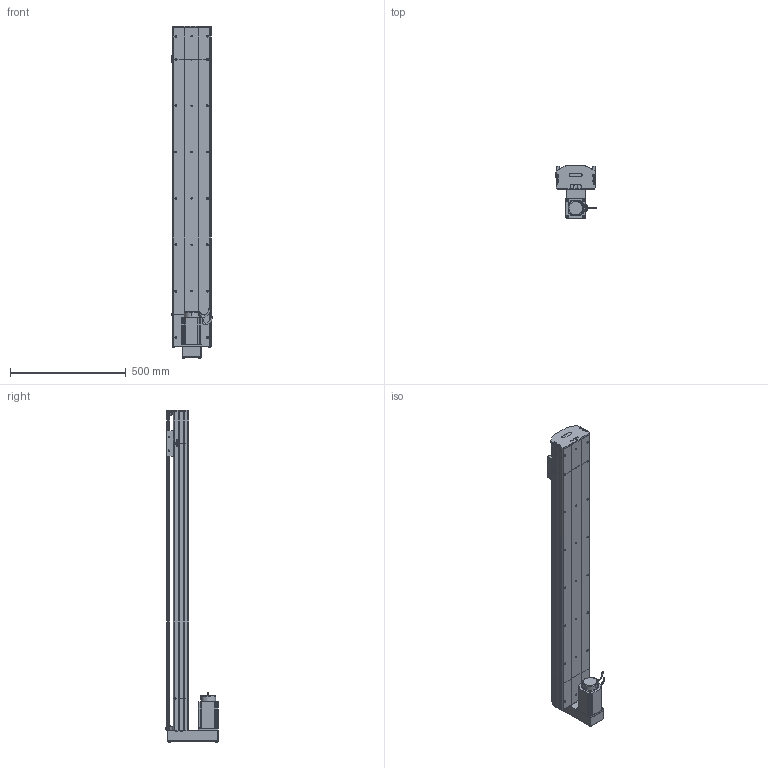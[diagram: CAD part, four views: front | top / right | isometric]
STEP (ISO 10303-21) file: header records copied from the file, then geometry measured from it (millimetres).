
FILE_DESCRIPTION (( 'STEP AP214' ), '1' );
FILE_NAME ('D17 TSN BM S1100.STEP', '2010-06-30T07:49:39', ( 'Christophe Gaillard' ), ( 'SGA' ), 'SwSTEP 2.0', 'SolidWorks 2010', '' );
FILE_SCHEMA (( 'AUTOMOTIVE_DESIGN' ));
Length unit declared in the file: millimetre
Products named in the file (33): arbre + rail D17 Course 1100 ; course 1100 D17_Default; D17 TSN BM S1100; Tail D17+L100_Default; couvercle D17 course L1100_Default; corp D17 1100_Default; tete d''axe bas D17; plaque de  bout tail D17_Default; corpl tail D17+L100_Default; couvercle D17_Default; Arbre+rail tail D17; tete d''axe haut D17; vis M5 L12_Default; Vis M5 L16-2_Default; Conecteur_Default; renvoi Bm_Default; Conecteur2_Default; codeur 90BLDC125-640; corps 90BLDC125A-640; Arbre+rail head D17; plaque de  bout BM head D17_Default; couvercle D17 head_Default; avant 90BLDC125A-640; Moteur motionking 90BLDC125A-640; vis M5 L5_Default; corpl head D17 BM_Default; head BM_Default; vis M5 L25_Default; Cvis M5 L70_Default; vis M5 L8 90°_Default; chariot D17 TSN; guide D17; Chariot D17 TBN
Assembly tree (51 placements, depth 4):
  D17 TSN BM S1100
    Tail D17+L100_Default
      vis M5 L12_Default  x4
      couvercle D17_Default
      tete d''axe bas D17
      tete d''axe haut D17
      corpl tail D17+L100_Default
      vis M5 L25_Default  x2
      vis M5 L8 90°_Default  x2
      Arbre+rail tail D17
      plaque de  bout tail D17_Default
    head BM_Default
      Arbre+rail head D17
      vis M5 L12_Default  x8
      Moteur motionking 90BLDC125A-640
        codeur 90BLDC125-640
        avant 90BLDC125A-640
        corps 90BLDC125A-640
        Conecteur_Default
        Conecteur2_Default
      Vis M5 L16-2_Default  x4
      vis M5 L5_Default  x2
      Cvis M5 L70_Default  x2
      plaque de  bout BM head D17_Default
      couvercle D17 head_Default
      renvoi Bm_Default
      corpl head D17 BM_Default
    course 1100 D17_Default
      arbre + rail D17 Course 1100 
      couvercle D17 course L1100_Default
      corp D17 1100_Default
    chariot D17 TSN
      Chariot D17 TBN
      guide D17  x2
Bounding box: 174.95 x 225.7 x 1432.7 mm (x, y, z)
Volume: 9122947.5 mm3; surface area: 2345083.1 mm2
Topology: 75 solids, 75 shells, 2155 faces, 5492 edges, 3550 vertices
Faces by surface type: plane 1326, cylinder 568, bspline 136, torus 65, cone 56, sphere 4
Entity records: 72445 total; most frequent: CARTESIAN_POINT 22813, ORIENTED_EDGE 8892, DIRECTION 8283, EDGE_CURVE 4446, VECTOR 3071, LINE 3071, VERTEX_POINT 2916, AXIS2_PLACEMENT_3D 2606
